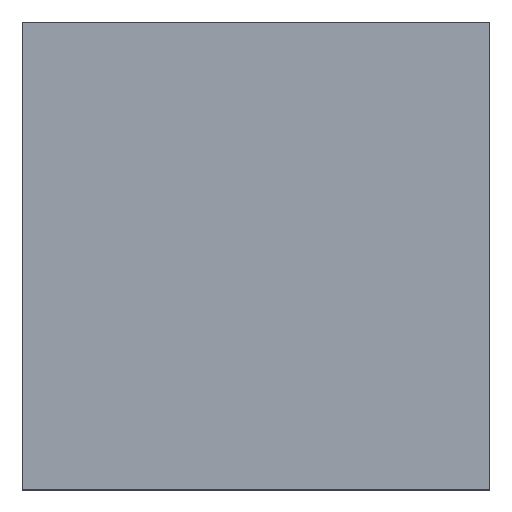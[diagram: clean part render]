
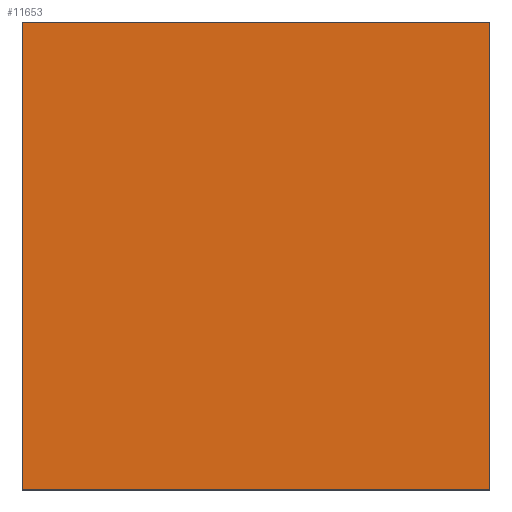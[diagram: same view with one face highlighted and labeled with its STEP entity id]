
A CAD part, top view. The second image highlights one B-rep face of the part: STEP entity #11653.
In plain terms, the highlighted planar face has unit normal (0, 0, 1).
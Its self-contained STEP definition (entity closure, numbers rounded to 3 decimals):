
#11614=CARTESIAN_POINT('',(0.,0.,20.));
#11615=DIRECTION('',(1.,0.,0.));
#11616=DIRECTION('',(0.,0.,1.));
#11617=AXIS2_PLACEMENT_3D('',#11614,#11616,#11615);
#11618=PLANE('',#11617);
#11619=CARTESIAN_POINT('',(548.5,-548.5,20.));
#11620=VERTEX_POINT('',#11619);
#11621=CARTESIAN_POINT('',(548.5,548.5,20.));
#11622=VERTEX_POINT('',#11621);
#11623=CARTESIAN_POINT('',(548.5,-548.5,20.));
#11624=DIRECTION('',(0.,1.,0.));
#11625=VECTOR('',#11624,1097.);
#11626=LINE('',#11623,#11625);
#11627=EDGE_CURVE('',#11620,#11622,#11626,.T.);
#11628=ORIENTED_EDGE('E117',*,*,#11627,.T.);
#11629=CARTESIAN_POINT('',(-548.5,548.5,20.));
#11630=VERTEX_POINT('',#11629);
#11631=CARTESIAN_POINT('',(548.5,548.5,20.));
#11632=DIRECTION('',(-1.,0.,0.));
#11633=VECTOR('',#11632,1097.);
#11634=LINE('',#11631,#11633);
#11635=EDGE_CURVE('',#11622,#11630,#11634,.T.);
#11636=ORIENTED_EDGE('E118',*,*,#11635,.T.);
#11637=CARTESIAN_POINT('',(-548.5,-548.5,20.));
#11638=VERTEX_POINT('',#11637);
#11639=CARTESIAN_POINT('',(-548.5,548.5,20.));
#11640=DIRECTION('',(0.,-1.,0.));
#11641=VECTOR('',#11640,1097.);
#11642=LINE('',#11639,#11641);
#11643=EDGE_CURVE('',#11630,#11638,#11642,.T.);
#11644=ORIENTED_EDGE('E120',*,*,#11643,.T.);
#11645=CARTESIAN_POINT('',(-548.5,-548.5,20.));
#11646=DIRECTION('',(1.,0.,0.));
#11647=VECTOR('',#11646,1097.);
#11648=LINE('',#11645,#11647);
#11649=EDGE_CURVE('',#11638,#11620,#11648,.T.);
#11650=ORIENTED_EDGE('E116',*,*,#11649,.T.);
#11651=EDGE_LOOP('',(#11628,#11636,#11644,#11650));
#11652=FACE_OUTER_BOUND('',#11651,.T.);
#11653=ADVANCED_FACE('F2',(#11652),#11618,.T.);
